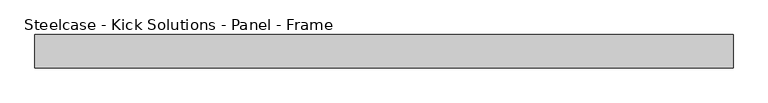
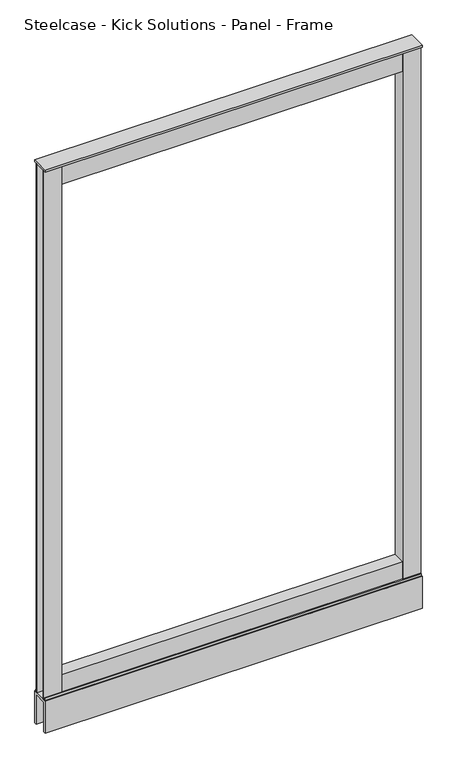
"""IFC4 building model written with IfcOpenShell, lengths in millimetres: furniture geometry, Steelcase - Kick Solutions - Panel - Frame : 66H x 42W."""

import ifcopenshell
import ifcopenshell.guid

model = None  # the IFC model being written
_history = None  # IfcOwnerHistory: only IFC2X3 demands one
_inside = {}  # id of a spatial element -> (the spatial element, [elements in it])
_under = {}  # id of a project, library or spatial element -> (it, [spatial elements below it])
_declared = {}  # id of a project -> (the project, [libraries it declares])
_typed = {}  # id of a type object -> (the type object, [elements of that type])
_made_of = {}  # id of a material, layer set ... -> (it, [elements and type objects made of it])


def new_model(schema):
    """Start an empty IFC model of exactly this schema.

    Asked for "IFC4X3", IfcOpenShell would pick the latest addendum, in which some entities
    have other attributes; the version numbers below select the first issue.
    IFC2X3 requires an IfcOwnerHistory on every rooted entity: one is made here for all.
    """
    global model, _history
    if schema == "IFC4X3":
        model = ifcopenshell.file(schema_version=(4, 3, 0, 0))
    else:
        model = ifcopenshell.file(schema=schema)
    _inside.clear()
    _under.clear()
    _declared.clear()
    _typed.clear()
    _made_of.clear()
    _history = None
    if model.schema == "IFC2X3":
        org = make("IfcOrganization", Name="unknown")
        user = make(
            "IfcPersonAndOrganization",
            ThePerson=make("IfcPerson", FamilyName="unknown"),
            TheOrganization=org,
        )
        app = make(
            "IfcApplication",
            ApplicationDeveloper=org,
            Version="unknown",
            ApplicationFullName="unknown",
            ApplicationIdentifier="unknown",
        )
        _history = make(
            "IfcOwnerHistory",
            OwningUser=user,
            OwningApplication=app,
            ChangeAction="ADDED",
            CreationDate=0,
        )
    return model


def make(cls, **values):
    """One entity of the class cls with the attributes given. An attribute that is None is left unset."""
    return model.create_entity(
        cls, **{name: value for name, value in values.items() if value is not None}
    )


def rooted(cls, **values):
    """An entity with a GlobalId (a new one), such as an element, a storey or a relation."""
    return make(cls, GlobalId=ifcopenshell.guid.new(), OwnerHistory=_history, **values)


def si_unit(unit_type, name, prefix=None):
    """IfcSIUnit, for example si_unit("LENGTHUNIT", "METRE", prefix="MILLI")."""
    return make("IfcSIUnit", UnitType=unit_type, Prefix=prefix, Name=name)


def assignment(units):
    """IfcUnitAssignment: the units of a project."""
    return None if units is None else make("IfcUnitAssignment", Units=units)


def point(xyz):
    """IfcCartesianPoint."""
    return None if xyz is None else make("IfcCartesianPoint", Coordinates=xyz)


def direction(xyz):
    """IfcDirection."""
    return None if xyz is None else make("IfcDirection", DirectionRatios=xyz)


def frame(location, z_axis=None, x_axis=None):
    """IfcAxis2Placement3D, a coordinate frame: its origin and axes. An axis left out is left unset."""
    return make(
        "IfcAxis2Placement3D",
        Location=point(location),
        Axis=direction(z_axis),
        RefDirection=direction(x_axis),
    )


def origin():
    """The frame at (0, 0, 0) with its axes left unset."""
    return frame((0.0, 0.0, 0.0))


def place(relative_to, where):
    """IfcLocalPlacement: puts the frame where relative to a parent placement (None: the world)."""
    return make(
        "IfcLocalPlacement", PlacementRelTo=relative_to, RelativePlacement=where
    )


def context(
    kind, dimensions, precision=None, world=None, true_north=None, identifier=None
):
    """IfcGeometricRepresentationContext, for example the 3D "Model" context."""
    return make(
        "IfcGeometricRepresentationContext",
        ContextIdentifier=identifier,
        ContextType=kind,
        CoordinateSpaceDimension=dimensions,
        Precision=precision,
        WorldCoordinateSystem=world,
        TrueNorth=true_north,
    )


def project(units=None, contexts=None):
    """IfcProject with its units and contexts."""
    return rooted(
        "IfcProject",
        Name="project",
        RepresentationContexts=contexts,
        UnitsInContext=assignment(units),
    )


def spatial(cls, under=None, at=None, **own):
    """A site, building, storey or space (cls), placed at a placement, below another one or the project."""
    s = rooted(cls, ObjectPlacement=at, **own)
    if under is not None:
        _under.setdefault(under.id(), (under, []))[1].append(s)
    return s


def polyline(points):
    """IfcPolyline through the points."""
    return make("IfcPolyline", Points=[point(p) for p in points])


def outline(outer, holes=None, kind="AREA"):
    """IfcArbitraryClosedProfileDef: a profile drawn as a closed curve; with holes, ...WithVoids."""
    if holes is None:
        return make("IfcArbitraryClosedProfileDef", ProfileType=kind, OuterCurve=outer)
    return make(
        "IfcArbitraryProfileDefWithVoids",
        ProfileType=kind,
        OuterCurve=outer,
        InnerCurves=holes,
    )


def extrude(swept, where, along, depth):
    """IfcExtrudedAreaSolid: the profile swept, set in the frame where, extruded along a direction by depth."""
    return make(
        "IfcExtrudedAreaSolid",
        SweptArea=swept,
        Position=where,
        ExtrudedDirection=direction(along),
        Depth=depth,
    )


def shape(context_of_items, identifier, shape_type, items):
    """IfcShapeRepresentation: the items that make up one representation, for example the "Body"."""
    return make(
        "IfcShapeRepresentation",
        ContextOfItems=context_of_items,
        RepresentationIdentifier=identifier,
        RepresentationType=shape_type,
        Items=items,
    )


def source(mapping_origin, context_of_items, identifier, shape_type, items):
    """IfcRepresentationMap: a shape defined once, which mapped items show again and again."""
    return make(
        "IfcRepresentationMap",
        MappingOrigin=mapping_origin,
        MappedRepresentation=shape(context_of_items, identifier, shape_type, items),
    )


def transform(
    local_origin,
    x_axis=None,
    y_axis=None,
    z_axis=None,
    scale=None,
    scale2=None,
    scale3=None,
    uniform=True,
):
    """IfcCartesianTransformationOperator3D, or its non-uniform kind. x_axis, y_axis, z_axis: its Axis1, 2, 3."""
    if uniform:
        return make(
            "IfcCartesianTransformationOperator3D",
            Axis1=direction(x_axis),
            Axis2=direction(y_axis),
            LocalOrigin=point(local_origin),
            Scale=scale,
            Axis3=direction(z_axis),
        )
    return make(
        "IfcCartesianTransformationOperator3DnonUniform",
        Axis1=direction(x_axis),
        Axis2=direction(y_axis),
        LocalOrigin=point(local_origin),
        Scale=scale,
        Axis3=direction(z_axis),
        Scale2=scale2,
        Scale3=scale3,
    )


def mapped(mapping_source, mapping_target):
    """IfcMappedItem: shows the shape of a source again, moved by a transform."""
    return make(
        "IfcMappedItem", MappingSource=mapping_source, MappingTarget=mapping_target
    )


def made_of(thing, what):
    """Note that an element or type object is made of a material, layer set ...; save() writes the relation."""
    if what is not None:
        _made_of.setdefault(what.id(), (what, []))[1].append(thing)
    return thing


def element(
    cls,
    number,
    at=None,
    inside=None,
    cuts=None,
    type_object=None,
    material=None,
    context=None,
    identifier="Body",
    shape_type=None,
    held_by="IfcProductDefinitionShape",
    body=None,
    shapes=None,
    **own,
):
    """One element of the class cls, such as IfcWall. Its Tag is "e" and its number.

    at: its placement. inside: the storey or other place that contains it. cuts: it is an
    opening in that element (IfcRelVoidsElement). A single representation is given by context,
    identifier, shape_type and body (its items); several are given by shapes. held_by: the class
    of the entity that holds the representations. save() writes the other relations.
    """
    e = rooted(cls, Tag="e%d" % number, ObjectPlacement=at, **own)
    if body is not None:
        shapes = [shape(context, identifier, shape_type, body)]
    if shapes is not None:
        e.Representation = make(held_by, Representations=shapes)
    if inside is not None:
        _inside.setdefault(inside.id(), (inside, []))[1].append(e)
    if cuts is not None:
        rooted(
            "IfcRelVoidsElement", RelatingBuildingElement=cuts, RelatedOpeningElement=e
        )
    if type_object is not None:
        _typed.setdefault(type_object.id(), (type_object, []))[1].append(e)
    return made_of(e, material)


def aggregate(whole, parts):
    """IfcRelAggregates: a whole, such as a stair, and the parts it consists of."""
    return rooted("IfcRelAggregates", RelatingObject=whole, RelatedObjects=parts)


def save(model, path):
    """Write the relations noted so far, then the file.

    IfcRelAggregates (storeys below a building ...), IfcRelContainedInSpatialStructure (elements
    in a storey), IfcRelDefinesByType, IfcRelAssociatesMaterial and IfcRelDeclares: one each for
    every whole, place, type object, material and project.
    """
    for whole, parts in _under.values():
        aggregate(whole, parts)
    for where, things in _inside.values():
        rooted(
            "IfcRelContainedInSpatialStructure",
            RelatedElements=things,
            RelatingStructure=where,
        )
    for kind, things in _typed.values():
        rooted("IfcRelDefinesByType", RelatedObjects=things, RelatingType=kind)
    for what, things in _made_of.values():
        rooted("IfcRelAssociatesMaterial", RelatedObjects=things, RelatingMaterial=what)
    for by, libraries in _declared.values():
        rooted("IfcRelDeclares", RelatingContext=by, RelatedDefinitions=libraries)
    model.write(path)


def steelcase_kick_solutions_panel_frame_81145956(model_context):
    return source(origin(), model_context, "Body", "SweptSolid", [
        extrude(outline(polyline([(50.8006646, 6.3506854), (50.8006646, -31.7493123), (0.0, -31.7493123), (0.0, -29.2093123), (48.2606646, -29.2093123), (48.2606646, 3.8106854), (0.0, 3.8106854), (0.0, 6.3506854), (50.8006646, 6.3506854)])), frame((0.0, 0.0, 95.25), z_axis=(0.0, 0.0, 1.0), x_axis=(1.0, 0.0, 0.0)), (0.0, 0.0, 1.0), 1581.15),
        extrude(outline(polyline([(1016.0006661, 6.3506854), (1066.8, 6.3506854), (1066.8, 3.8106854), (1018.5393354, 3.8106854), (1018.5393354, -29.2093123), (1066.8, -29.2093123), (1066.8, -31.7493123), (1016.0006661, -31.7493123), (1016.0006661, 6.3506854)])), frame((0.0, 0.0, 95.25), z_axis=(0.0, 0.0, 1.0), x_axis=(1.0, 0.0, 0.0)), (0.0, 0.0, 1.0), 1581.15),
        extrude(outline(polyline([(6.3506854, 101.600003), (9.5256855, 101.600003), (9.5256855, 95.25), (8.409661, 95.25), (8.409661, 100.2902081), (6.3506854, 100.2902081), (6.3506854, 101.600003)])), frame((0.0, 0.0, 0.0), z_axis=(1.0, 0.0, 0.0), x_axis=(0.0, 1.0, 0.0)), (0.0, 0.0, 1.0), 1066.8),
        extrude(outline(polyline([(-34.9243138, 101.600003), (-31.7493123, 101.600003), (-31.7493123, 100.2902081), (-33.8479845, 100.2902081), (-33.8479845, 95.25), (-34.9243138, 95.25), (-34.9243138, 101.600003)])), frame((0.0, 0.0, 0.0), z_axis=(1.0, 0.0, 0.0), x_axis=(0.0, 1.0, 0.0)), (0.0, 0.0, 1.0), 1066.8),
        extrude(outline(polyline([(1016.0006661, -31.7493123), (50.8006646, -31.7493123), (50.8006646, 6.3506854), (1016.0006661, 6.3506854), (1016.0006661, -31.7493123)])), frame((0.0, 0.0, 1619.2500242), z_axis=(0.0, 0.0, 1.0), x_axis=(1.0, 0.0, 0.0)), (0.0, 0.0, 1.0), 57.1499758),
        extrude(outline(polyline([(1016.0006661, -31.7493123), (50.8006646, -31.7493123), (50.8006646, 6.3506854), (1016.0006661, 6.3506854), (1016.0006661, -31.7493123)])), frame((0.0, 0.0, 95.25), z_axis=(0.0, 0.0, 1.0), x_axis=(1.0, 0.0, 0.0)), (0.0, 0.0, 1.0), 57.15),
        extrude(outline(polyline([(1066.8, 12.7000004), (1066.8, -38.1000011), (0.0, -38.1000011), (0.0, 12.7000004), (1066.8, 12.7000004)])), frame((0.0, 0.0, 1676.4), z_axis=(0.0, 0.0, 1.0), x_axis=(1.0, 0.0, 0.0)), (0.0, 0.0, 1.0), 6.35),
        extrude(outline(polyline([(-38.1000011, 95.25), (12.7000004, 95.25), (12.7000004, 0.0), (6.3506854, 0.0), (6.3506854, 88.9), (-31.7493123, 88.9), (-31.7493123, 0.0), (-38.1000011, 0.0), (-38.1000011, 95.25)])), frame((0.0, 0.0, 0.0), z_axis=(1.0, 0.0, 0.0), x_axis=(0.0, 1.0, 0.0)), (0.0, 0.0, 1.0), 1066.8),
    ])


if __name__ == "__main__":
    model = new_model("IFC4")
    model_context = context("Model", 3, world=origin())
    ifc_project = project(units=[si_unit("LENGTHUNIT", "METRE", prefix="MILLI")], contexts=[model_context])
    site = spatial("IfcSite", under=ifc_project)
    building = spatial("IfcBuilding", under=site)
    placement = place(None, origin())
    steelcase_kick_solutions_panel_frame_shape = steelcase_kick_solutions_panel_frame_81145956(model_context)
    element("IfcFurniture", 1, ObjectType="Steelcase - Kick Solutions - Panel - Frame : 66H x 42W", at=placement, inside=building, context=model_context, shape_type="MappedRepresentation", body=[
        mapped(steelcase_kick_solutions_panel_frame_shape, transform((0.0, 0.0, 0.0), x_axis=(1.0, 0.0, 0.0), y_axis=(0.0, 1.0, 0.0), z_axis=(0.0, 0.0, 1.0))),
    ])
    save(model, "model.ifc")
